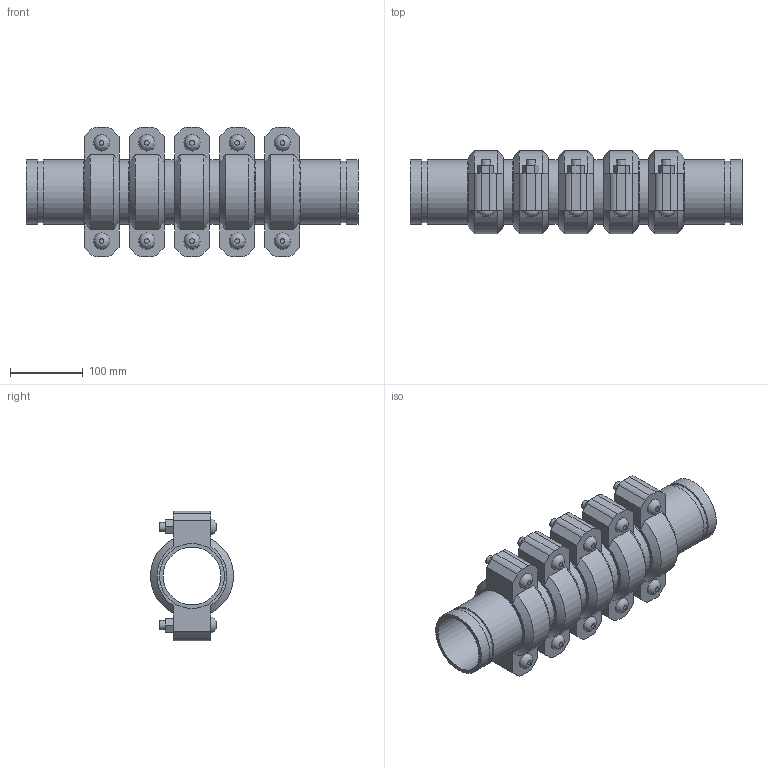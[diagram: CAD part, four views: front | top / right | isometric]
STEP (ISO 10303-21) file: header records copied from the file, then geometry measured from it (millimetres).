
FILE_DESCRIPTION(/* description */ ('VIC SS EXPANSION JOINT 5 COUPLINGS EXPANDED STYLE 155P (OGS) (POTABLE WATER) ','CAx-IF Rec.Pracs.---Representation and Presentation of Product Manufacturing Information (PMI)---4.0---2014-10-13'),/* implementation_level */ '2;1');
FILE_NAME(/* name */ 'C:\Users\kkamble\AppData\Roaming\Autodesk\ApplicationPlugins\Victaulic.Temp\A411\Victaulic_SS_Expansion Joint_Expanded_5 Couplings_Style 155P (OGS)-Potable Water_5 Coup_Expd_3 (80).stp',/* time_stamp */ '2021-07-16T16:52:41+05:00',/* author */ ('kkamble'),/* organization */ ('Victaulic'),/* preprocessor_version */ 'ST-DEVELOPER v17.2',/* originating_system */ 'Autodesk Inventor 2019',/* authorisation */ '');
FILE_SCHEMA (('AP242_MANAGED_MODEL_BASED_3D_ENGINEERING_MIM_LF { 1 0 10303 442 1 1 4 }'));
Length unit declared in the file: inch
Products named in the file (4): 155P-03.0; Nipple-03.0; Nipple-03.0_1; 075-03.0
Assembly tree (11 placements, depth 2):
  155P-03.0
    Nipple-03.0  x2
    Nipple-03.0_1  x4
    075-03.0  x5
Bounding box: 455.42 x 113.88 x 177.8 mm (x, y, z)
Volume: 2181157.3 mm3; surface area: 568742.8 mm2
Topology: 11 solids, 21 shells, 357 faces, 845 edges, 594 vertices
Faces by surface type: plane 216, cylinder 111, cone 20, bspline 10
Full cylindrical faces by diameter (mm): 12.7 x20, 14.605 x10, 79.35 x6, 82.55 x5, 84.938 x12, 88.9 x28
Entity records: 2792 total; most frequent: CARTESIAN_POINT 495, DIRECTION 465, ORIENTED_EDGE 386, EDGE_CURVE 193, AXIS2_PLACEMENT_3D 186, VERTEX_POINT 138, EDGE_LOOP 107, LINE 93
